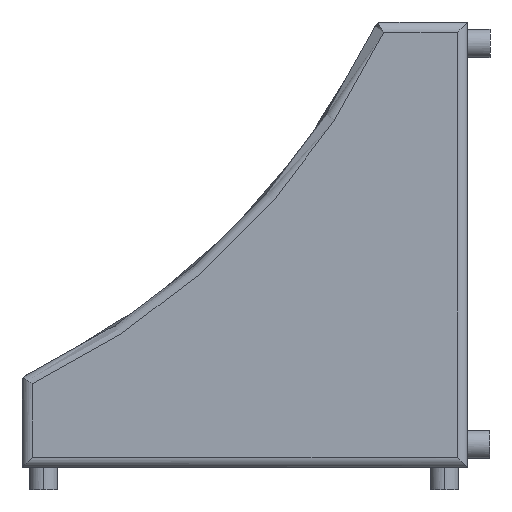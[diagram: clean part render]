
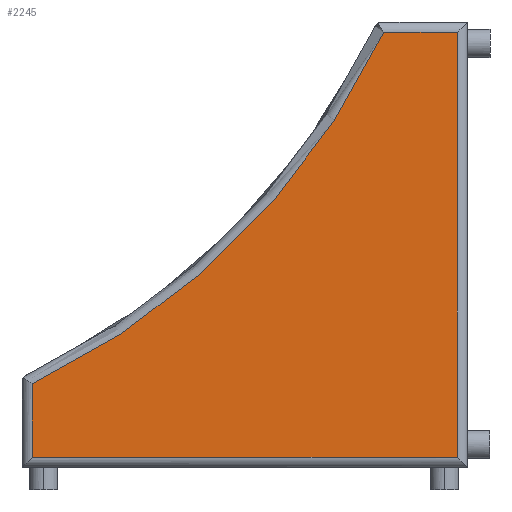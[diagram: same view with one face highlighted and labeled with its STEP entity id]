
A CAD part, left-side view. The second image highlights one B-rep face of the part: STEP entity #2245.
In plain terms, the highlighted planar face has unit normal (-1, 0, 0).
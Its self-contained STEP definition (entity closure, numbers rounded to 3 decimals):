
#129 = VECTOR ( 'NONE', #5778, 1000. ) ;
#135 = CARTESIAN_POINT ( 'NONE',  ( -30., 29.3, 50.665 ) ) ;
#190 = EDGE_LOOP ( 'NONE', ( #4306, #5965, #2776, #4030, #3290 ) ) ;
#207 = VERTEX_POINT ( 'NONE', #1528 ) ;
#208 = LINE ( 'NONE', #3940, #129 ) ;
#351 = DIRECTION ( 'NONE',  ( 0., 0., -1. ) ) ;
#352 = LINE ( 'NONE', #744, #1790 ) ;
#571 = CARTESIAN_POINT ( 'NONE',  ( -30., 50.665, 29.3 ) ) ;
#744 = CARTESIAN_POINT ( 'NONE',  ( -30., 50.665, 0.7 ) ) ;
#879 = EDGE_CURVE ( 'NONE', #3240, #207, #208, .T. ) ;
#1528 = CARTESIAN_POINT ( 'NONE',  ( -30., 0.7, 29.3 ) ) ;
#1589 = DIRECTION ( 'NONE',  ( 0., 1., 0. ) ) ;
#1790 = VECTOR ( 'NONE', #5697, 1000. ) ;
#1849 = AXIS2_PLACEMENT_3D ( 'NONE', #4583, #5010, #351 ) ;
#1916 = CARTESIAN_POINT ( 'NONE',  ( -30., 5.655, 29.3 ) ) ;
#2245 = ADVANCED_FACE ( 'NONE', ( #4722 ), #5649, .F. ) ;
#2300 = VERTEX_POINT ( 'NONE', #3682 ) ;
#2378 = EDGE_CURVE ( 'NONE', #3661, #2300, #2500, .T. ) ;
#2466 = VECTOR ( 'NONE', #5706, 1000. ) ;
#2487 = EDGE_CURVE ( 'NONE', #2300, #3240, #352, .T. ) ;
#2500 = LINE ( 'NONE', #135, #2466 ) ;
#2776 = ORIENTED_EDGE ( 'NONE', *, *, #879, .T. ) ;
#3105 = VECTOR ( 'NONE', #1589, 1000. ) ;
#3240 = VERTEX_POINT ( 'NONE', #4452 ) ;
#3290 = ORIENTED_EDGE ( 'NONE', *, *, #5441, .T. ) ;
#3406 = CIRCLE ( 'NONE', #1849, 49.823 ) ;
#3421 = DIRECTION ( 'NONE',  ( 0., 0., -1. ) ) ;
#3661 = VERTEX_POINT ( 'NONE', #4475 ) ;
#3682 = CARTESIAN_POINT ( 'NONE',  ( -30., 29.3, 0.7 ) ) ;
#3875 = DIRECTION ( 'NONE',  ( 1., 0., 0. ) ) ;
#3940 = CARTESIAN_POINT ( 'NONE',  ( -30., 0.7, 50.665 ) ) ;
#4030 = ORIENTED_EDGE ( 'NONE', *, *, #4050, .T. ) ;
#4050 = EDGE_CURVE ( 'NONE', #207, #4317, #4381, .T. ) ;
#4306 = ORIENTED_EDGE ( 'NONE', *, *, #2378, .T. ) ;
#4317 = VERTEX_POINT ( 'NONE', #1916 ) ;
#4381 = LINE ( 'NONE', #571, #3105 ) ;
#4452 = CARTESIAN_POINT ( 'NONE',  ( -30., 0.7, 0.7 ) ) ;
#4475 = CARTESIAN_POINT ( 'NONE',  ( -30., 29.3, 5.655 ) ) ;
#4583 = CARTESIAN_POINT ( 'NONE',  ( -30., 50.665, 50.665 ) ) ;
#4722 = FACE_OUTER_BOUND ( 'NONE', #190, .T. ) ;
#5010 = DIRECTION ( 'NONE',  ( 1., 0., 0. ) ) ;
#5112 = CARTESIAN_POINT ( 'NONE',  ( -30., 50.665, 50.665 ) ) ;
#5441 = EDGE_CURVE ( 'NONE', #4317, #3661, #3406, .T. ) ;
#5649 = PLANE ( 'NONE',  #5847 ) ;
#5697 = DIRECTION ( 'NONE',  ( 0., -1., 0. ) ) ;
#5706 = DIRECTION ( 'NONE',  ( 0., 0., -1. ) ) ;
#5778 = DIRECTION ( 'NONE',  ( 0., 0., 1. ) ) ;
#5847 = AXIS2_PLACEMENT_3D ( 'NONE', #5112, #3875, #3421 ) ;
#5965 = ORIENTED_EDGE ( 'NONE', *, *, #2487, .T. ) ;
